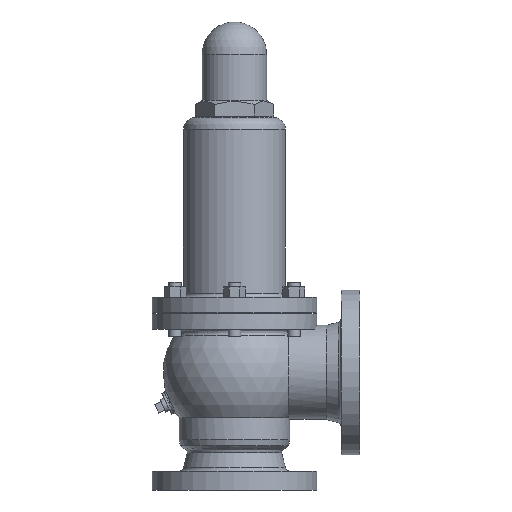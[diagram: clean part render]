
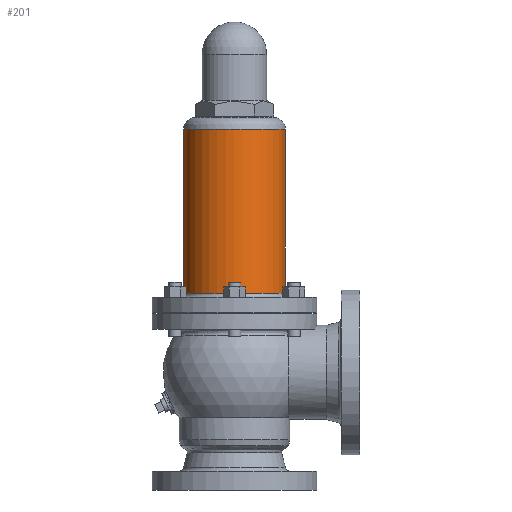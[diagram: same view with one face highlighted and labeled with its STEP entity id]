
A CAD part, front view. The second image highlights one B-rep face of the part: STEP entity #201.
In plain terms, the highlighted cylindrical face has radius 65 mm (diameter 130 mm), a partial arc.
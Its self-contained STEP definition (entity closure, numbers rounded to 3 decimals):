
#201=ADVANCED_FACE('',(#1279),#1278,.T.);
#1278=CYLINDRICAL_SURFACE('',#3417,65.);
#1279=FACE_OUTER_BOUND('',#3418,.T.);
#3414=CARTESIAN_POINT('',(0.,0.,0.));
#3415=DIRECTION('',(0.,0.,1.));
#3416=DIRECTION('',(1.,0.,0.));
#3417=AXIS2_PLACEMENT_3D('',#3414,#3415,#3416);
#3418=EDGE_LOOP('',(#4857,#4858,#4859,#4860));
#4857=ORIENTED_EDGE('',*,*,#5744,.F.);
#4858=ORIENTED_EDGE('',*,*,#5748,.T.);
#4859=ORIENTED_EDGE('',*,*,#5750,.T.);
#4860=ORIENTED_EDGE('',*,*,#5749,.F.);
#5744=EDGE_CURVE('',#8316,#8323,#8324,.T.);
#5748=EDGE_CURVE('',#8316,#8343,#8350,.T.);
#5749=EDGE_CURVE('',#8323,#8342,#8356,.T.);
#5750=EDGE_CURVE('',#8343,#8342,#8362,.T.);
#8316=VERTEX_POINT('',#11445);
#8323=VERTEX_POINT('',#11449);
#8324=CIRCLE('',#11453,65.);
#8342=VERTEX_POINT('',#11461);
#8343=VERTEX_POINT('',#11462);
#8350=(BOUNDED_CURVE() B_SPLINE_CURVE(1,(#11467,#11468),.UNSPECIFIED.,.F.,.F.) B_SPLINE_CURVE_WITH_KNOTS((2,2),(0.044,0.956),.UNSPECIFIED.) CURVE() GEOMETRIC_REPRESENTATION_ITEM() RATIONAL_B_SPLINE_CURVE((1.,1.)) REPRESENTATION_ITEM('') );
#8356=(BOUNDED_CURVE() B_SPLINE_CURVE(1,(#11469,#11470),.UNSPECIFIED.,.F.,.F.) B_SPLINE_CURVE_WITH_KNOTS((2,2),(0.044,0.956),.UNSPECIFIED.) CURVE() GEOMETRIC_REPRESENTATION_ITEM() RATIONAL_B_SPLINE_CURVE((0.75,0.75)) REPRESENTATION_ITEM('') );
#8362=CIRCLE('',#11474,65.);
#11445=CARTESIAN_POINT('',(65.,0.,101.));
#11449=CARTESIAN_POINT('',(-65.,0.,101.));
#11450=CARTESIAN_POINT('',(0.,0.,101.));
#11451=DIRECTION('',(0.,0.,-1.));
#11452=DIRECTION('',(-1.,0.,0.));
#11453=AXIS2_PLACEMENT_3D('',#11450,#11451,#11452);
#11461=CARTESIAN_POINT('',(-65.,0.,310.));
#11462=CARTESIAN_POINT('',(65.,0.,310.));
#11467=CARTESIAN_POINT('',(65.,0.,101.));
#11468=CARTESIAN_POINT('',(65.,0.,310.));
#11469=CARTESIAN_POINT('',(-65.,0.,101.));
#11470=CARTESIAN_POINT('',(-65.,0.,310.));
#11471=CARTESIAN_POINT('',(0.,0.,310.));
#11472=DIRECTION('',(0.,0.,-1.));
#11473=DIRECTION('',(-1.,0.,0.));
#11474=AXIS2_PLACEMENT_3D('',#11471,#11472,#11473);
